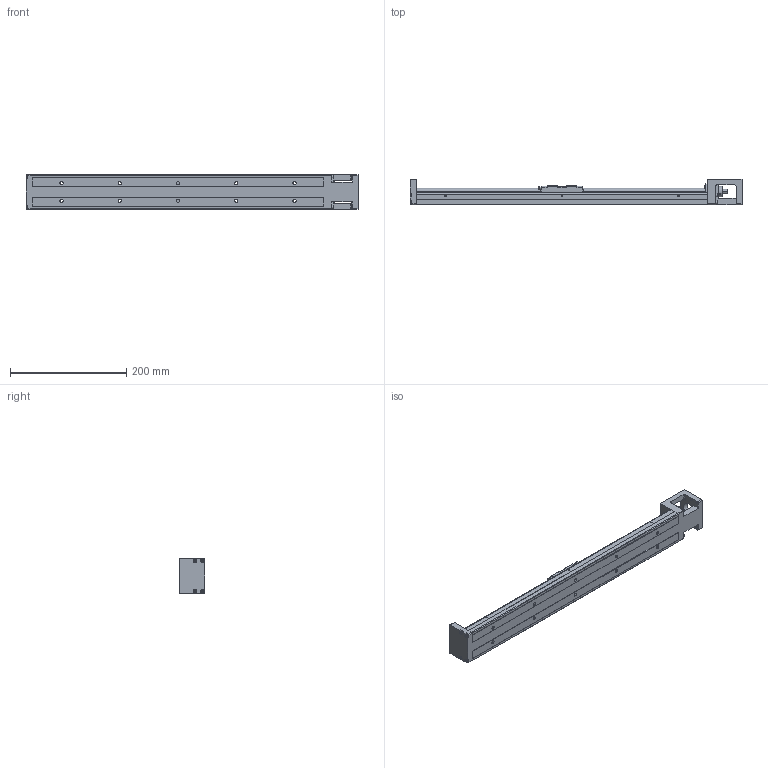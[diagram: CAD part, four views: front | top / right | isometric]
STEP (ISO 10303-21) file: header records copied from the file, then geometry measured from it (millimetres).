
FILE_DESCRIPTION (( 'STEP AP203' ), '1' );
FILE_NAME ('HKK60D10C500A1F0.stp', '2021-11-25T02:16:38', ( '' ), ( '' ), 'SwSTEP 2.0', 'SolidWorks 2018', '' );
FILE_SCHEMA (( 'CONFIG_CONTROL_DESIGN' ));
Length unit declared in the file: millimetre
Products named in the file (1): HKK60D10C500A1F0
Bounding box: 570 x 44.5 x 60 mm (x, y, z)
Volume: 565584.1 mm3; surface area: 158047.9 mm2
Topology: 2 solids, 2 shells, 553 faces, 1468 edges, 945 vertices
Faces by surface type: plane 318, cylinder 187, cone 38, torus 8, sphere 2
Entity records: 17291 total; most frequent: CARTESIAN_POINT 3341, DIRECTION 2876, ORIENTED_EDGE 2860, EDGE_CURVE 1430, LINE 992, VECTOR 992, VERTEX_POINT 945, AXIS2_PLACEMENT_3D 942
